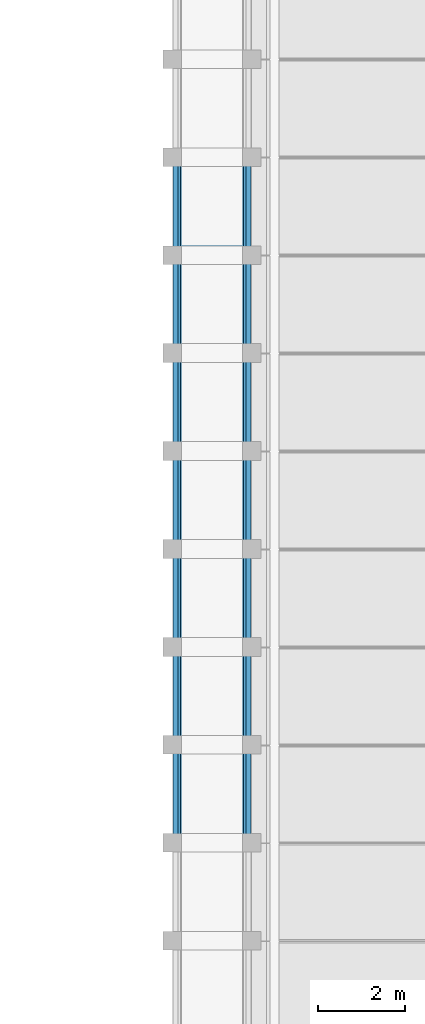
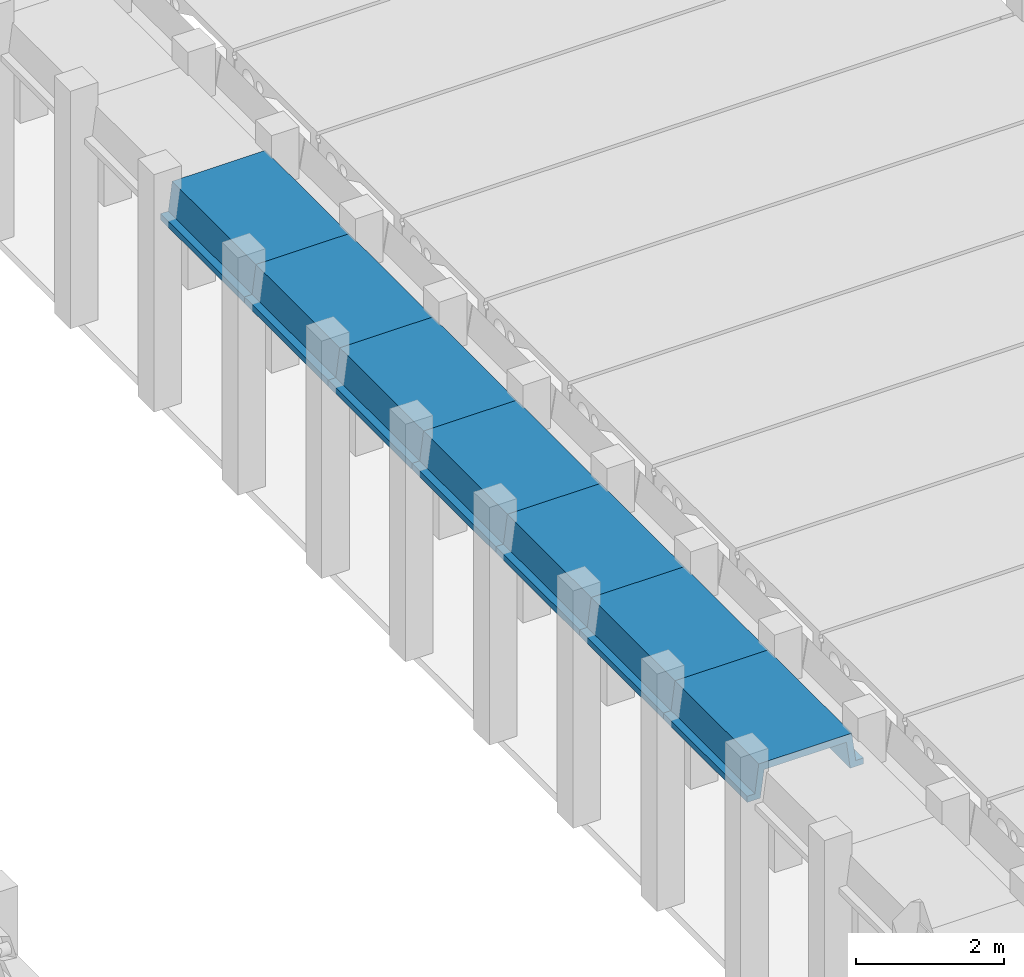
# One storey, part 14 of 21: 7 beams.
"""IFC2X3 building model written with IfcOpenShell, lengths in millimetres."""

from ifc_helpers import new_model, entity, si_unit, converted_unit, derived_unit, direction, frame, origin, place, context, subcontext, project, spatial, polyline, outline, extrude, material, type_object, element, save


model = new_model("IFC2X3")

# Units and contexts
model_context = context("Model", 3, precision=0.01, world=origin(), true_north=direction((6.12303176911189e-17, 1.0)))
body_context = subcontext(model_context, "Body", "Model", "MODEL_VIEW")
ifc_project = project(units=[si_unit("LENGTHUNIT", "METRE", prefix="MILLI"), si_unit("AREAUNIT", "SQUARE_METRE"), si_unit("VOLUMEUNIT", "CUBIC_METRE"), converted_unit("PLANEANGLEUNIT", "DEGREE", entity("IfcRatioMeasure", 0.0174532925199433), si_unit("PLANEANGLEUNIT", "RADIAN"), dimensions=[0, 0, 0, 0, 0, 0, 0]), si_unit("MASSUNIT", "GRAM", prefix="KILO"), derived_unit("MASSDENSITYUNIT", [(si_unit("MASSUNIT", "GRAM", prefix="KILO"), 1), (si_unit("LENGTHUNIT", "METRE"), -3)]), derived_unit("MOMENTOFINERTIAUNIT", [(si_unit("LENGTHUNIT", "METRE"), 4)]), si_unit("TIMEUNIT", "SECOND"), si_unit("FREQUENCYUNIT", "HERTZ"), si_unit("THERMODYNAMICTEMPERATUREUNIT", "DEGREE_CELSIUS"), derived_unit("THERMALTRANSMITTANCEUNIT", [(si_unit("MASSUNIT", "GRAM", prefix="KILO"), 1), (si_unit("THERMODYNAMICTEMPERATUREUNIT", "KELVIN"), -1), (si_unit("TIMEUNIT", "SECOND"), -3)]), derived_unit("VOLUMETRICFLOWRATEUNIT", [(si_unit("LENGTHUNIT", "METRE"), 3), (si_unit("TIMEUNIT", "SECOND"), -1)]), si_unit("ELECTRICCURRENTUNIT", "AMPERE"), si_unit("ELECTRICVOLTAGEUNIT", "VOLT"), si_unit("POWERUNIT", "WATT"), si_unit("FORCEUNIT", "NEWTON", prefix="KILO"), si_unit("ILLUMINANCEUNIT", "LUX"), si_unit("LUMINOUSFLUXUNIT", "LUMEN"), si_unit("LUMINOUSINTENSITYUNIT", "CANDELA"), derived_unit("USERDEFINED", [(si_unit("MASSUNIT", "GRAM", prefix="KILO"), -1), (si_unit("LENGTHUNIT", "METRE"), -2), (si_unit("TIMEUNIT", "SECOND"), 3), (si_unit("LUMINOUSFLUXUNIT", "LUMEN"), 1)]), derived_unit("LINEARVELOCITYUNIT", [(si_unit("LENGTHUNIT", "METRE"), 1), (si_unit("TIMEUNIT", "SECOND"), -1)]), si_unit("PRESSUREUNIT", "PASCAL"), derived_unit("USERDEFINED", [(si_unit("LENGTHUNIT", "METRE"), -2), (si_unit("MASSUNIT", "GRAM", prefix="KILO"), 1), (si_unit("TIMEUNIT", "SECOND"), -2)]), derived_unit("LINEARFORCEUNIT", [(si_unit("MASSUNIT", "GRAM", prefix="KILO"), 1), (si_unit("LENGTHUNIT", "METRE"), 1), (si_unit("TIMEUNIT", "SECOND"), -2), (si_unit("LENGTHUNIT", "METRE"), -1)]), derived_unit("PLANARFORCEUNIT", [(si_unit("MASSUNIT", "GRAM", prefix="KILO"), 1), (si_unit("LENGTHUNIT", "METRE"), 1), (si_unit("TIMEUNIT", "SECOND"), -2), (si_unit("LENGTHUNIT", "METRE"), -2)])], contexts=[model_context])

# Site, building, storey
site_placement = place(None, frame((10627.5135316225, 21939.0796949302, 0.0)))
site = spatial("IfcSite", under=ifc_project, at=site_placement, Name="Default", CompositionType="ELEMENT")
building_placement = place(site_placement, origin())
building = spatial("IfcBuilding", under=site, at=building_placement, CompositionType="ELEMENT")
storey_placement = place(building_placement, frame((0.0, 0.0, 7320.0)))
storey = spatial("IfcBuildingStorey", under=building, at=storey_placement, Name="R+2", CompositionType="ELEMENT", Elevation=7320.0)

# Beams
ifc_material = material(Name="Concrete, Precast Smooth, Light Grey")
beam_type = type_object("IfcBeamType", Name="Poutre petite:Poutre petite", PredefinedType="NOTDEFINED")
beam_1_placement = place(storey_placement, frame((52487.4864683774, 7440.92030506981, 3530.00034615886), z_axis=(0.0, 0.0, 1.0), x_axis=(0.0, 1.0, 0.0)))
element("IfcBeam", 1, at=beam_1_placement, inside=storey, type_object=beam_type, material=ifc_material, Name="Poutre petite:Poutre petite", ObjectType="Poutre petite:Poutre petite", context=body_context, shape_type="SweptSolid", body=[
    extrude(outline(polyline([(103.333217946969, -905.014058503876), (203.333564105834, -905.014058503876), (203.333564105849, -700.013543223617), (-246.666782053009, -640.013497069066), (-246.666782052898, 640.013684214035), (203.333564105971, 700.013730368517), (203.333564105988, 905.013684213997), (103.333217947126, 905.013684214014), (103.333217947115, 785.013684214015), (-366.666782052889, 725.013684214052), (-366.666782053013, -725.013497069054), (103.333217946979, -785.013497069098), (103.333217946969, -905.014058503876)])), frame((0.0, 0.000187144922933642, -366.66678205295), z_axis=(1.0, 0.0, 0.0), x_axis=(0.0, 0.0, -1.0)), (0.0, 0.0, 1.0), 2260.0),
])
beam_2_placement = place(storey_placement, frame((52487.4864683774, 5180.92030506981, 3530.00034615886), z_axis=(0.0, 0.0, 1.0), x_axis=(0.0, 1.0, 0.0)))
element("IfcBeam", 2, at=beam_2_placement, inside=storey, type_object=beam_type, material=ifc_material, Name="Poutre petite:Poutre petite", ObjectType="Poutre petite:Poutre petite", context=body_context, shape_type="SweptSolid", body=[
    extrude(outline(polyline([(103.333217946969, -905.014058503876), (203.333564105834, -905.014058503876), (203.333564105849, -700.013543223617), (-246.666782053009, -640.013497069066), (-246.666782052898, 640.013684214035), (203.333564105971, 700.013730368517), (203.333564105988, 905.013684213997), (103.333217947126, 905.013684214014), (103.333217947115, 785.013684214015), (-366.666782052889, 725.013684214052), (-366.666782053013, -725.013497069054), (103.333217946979, -785.013497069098), (103.333217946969, -905.014058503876)])), frame((0.0, 0.000187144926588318, -366.66678205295), z_axis=(1.0, 0.0, 0.0), x_axis=(0.0, 0.0, -1.0)), (0.0, 0.0, 1.0), 2260.0),
])
beam_3_placement = place(storey_placement, frame((52487.4864683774, 2920.92030506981, 3530.00034615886), z_axis=(0.0, 0.0, 1.0), x_axis=(0.0, 1.0, 0.0)))
element("IfcBeam", 3, at=beam_3_placement, inside=storey, type_object=beam_type, material=ifc_material, Name="Poutre petite:Poutre petite", ObjectType="Poutre petite:Poutre petite", context=body_context, shape_type="SweptSolid", body=[
    extrude(outline(polyline([(103.333217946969, -905.014058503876), (203.333564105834, -905.014058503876), (203.333564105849, -700.013543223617), (-246.666782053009, -640.013497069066), (-246.666782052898, 640.013684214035), (203.333564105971, 700.013730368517), (203.333564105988, 905.013684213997), (103.333217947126, 905.013684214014), (103.333217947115, 785.013684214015), (-366.666782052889, 725.013684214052), (-366.666782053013, -725.013497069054), (103.333217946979, -785.013497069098), (103.333217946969, -905.014058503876)])), frame((0.0, 0.000187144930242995, -366.66678205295), z_axis=(1.0, 0.0, 0.0), x_axis=(0.0, 0.0, -1.0)), (0.0, 0.0, 1.0), 2260.0),
])
beam_4_placement = place(storey_placement, frame((52487.4864683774, 660.920305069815, 3530.00034615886), z_axis=(0.0, 0.0, 1.0), x_axis=(0.0, 1.0, 0.0)))
element("IfcBeam", 4, at=beam_4_placement, inside=storey, type_object=beam_type, material=ifc_material, Name="Poutre petite:Poutre petite", ObjectType="Poutre petite:Poutre petite", context=body_context, shape_type="SweptSolid", body=[
    extrude(outline(polyline([(103.333217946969, -905.014058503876), (203.333564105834, -905.014058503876), (203.333564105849, -700.013543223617), (-246.666782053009, -640.013497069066), (-246.666782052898, 640.013684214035), (203.333564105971, 700.013730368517), (203.333564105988, 905.013684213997), (103.333217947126, 905.013684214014), (103.333217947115, 785.013684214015), (-366.666782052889, 725.013684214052), (-366.666782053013, -725.013497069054), (103.333217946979, -785.013497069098), (103.333217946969, -905.014058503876)])), frame((0.0, 0.000187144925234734, -366.66678205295), z_axis=(1.0, 0.0, 0.0), x_axis=(0.0, 0.0, -1.0)), (0.0, 0.0, 1.0), 2260.0),
])
beam_5_placement = place(storey_placement, frame((52487.4864683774, -1599.07969493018, 3530.00034615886), z_axis=(0.0, 0.0, 1.0), x_axis=(0.0, 1.0, 0.0)))
element("IfcBeam", 5, at=beam_5_placement, inside=storey, type_object=beam_type, material=ifc_material, Name="Poutre petite:Poutre petite", ObjectType="Poutre petite:Poutre petite", context=body_context, shape_type="SweptSolid", body=[
    extrude(outline(polyline([(103.333217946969, -905.014058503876), (203.333564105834, -905.014058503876), (203.333564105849, -700.013543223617), (-246.666782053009, -640.013497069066), (-246.666782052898, 640.013684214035), (203.333564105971, 700.013730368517), (203.333564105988, 905.013684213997), (103.333217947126, 905.013684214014), (103.333217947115, 785.013684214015), (-366.666782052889, 725.013684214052), (-366.666782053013, -725.013497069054), (103.333217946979, -785.013497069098), (103.333217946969, -905.014058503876)])), frame((0.0, 0.000187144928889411, -366.66678205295), z_axis=(1.0, 0.0, 0.0), x_axis=(0.0, 0.0, -1.0)), (0.0, 0.0, 1.0), 2260.0),
])
beam_6_placement = place(storey_placement, frame((52487.4864683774, -3859.07969493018, 3530.00034615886), z_axis=(0.0, 0.0, 1.0), x_axis=(0.0, 1.0, 0.0)))
element("IfcBeam", 6, at=beam_6_placement, inside=storey, type_object=beam_type, material=ifc_material, Name="Poutre petite:Poutre petite", ObjectType="Poutre petite:Poutre petite", context=body_context, shape_type="SweptSolid", body=[
    extrude(outline(polyline([(103.333217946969, -905.014058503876), (203.333564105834, -905.014058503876), (203.333564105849, -700.013543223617), (-246.666782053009, -640.013497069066), (-246.666782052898, 640.013684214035), (203.333564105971, 700.013730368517), (203.333564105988, 905.013684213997), (103.333217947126, 905.013684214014), (103.333217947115, 785.013684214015), (-366.666782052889, 725.013684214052), (-366.666782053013, -725.013497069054), (103.333217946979, -785.013497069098), (103.333217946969, -905.014058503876)])), frame((0.0, 0.00018714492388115, -366.66678205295), z_axis=(1.0, 0.0, 0.0), x_axis=(0.0, 0.0, -1.0)), (0.0, 0.0, 1.0), 2260.0),
])
beam_7_placement = place(storey_placement, frame((52487.4864683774, -6119.07969493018, 3530.00034615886), z_axis=(0.0, 0.0, 1.0), x_axis=(0.0, 1.0, 0.0)))
element("IfcBeam", 7, at=beam_7_placement, inside=storey, type_object=beam_type, material=ifc_material, Name="Poutre petite:Poutre petite", ObjectType="Poutre petite:Poutre petite", context=body_context, shape_type="SweptSolid", body=[
    extrude(outline(polyline([(103.333217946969, -905.014058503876), (203.333564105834, -905.014058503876), (203.333564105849, -700.013543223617), (-246.666782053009, -640.013497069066), (-246.666782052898, 640.013684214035), (203.333564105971, 700.013730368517), (203.333564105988, 905.013684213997), (103.333217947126, 905.013684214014), (103.333217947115, 785.013684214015), (-366.666782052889, 725.013684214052), (-366.666782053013, -725.013497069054), (103.333217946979, -785.013497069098), (103.333217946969, -905.014058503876)])), frame((0.0, 0.000187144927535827, -366.66678205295), z_axis=(1.0, 0.0, 0.0), x_axis=(0.0, 0.0, -1.0)), (0.0, 0.0, 1.0), 2260.0),
])

save(model, "model.ifc")
